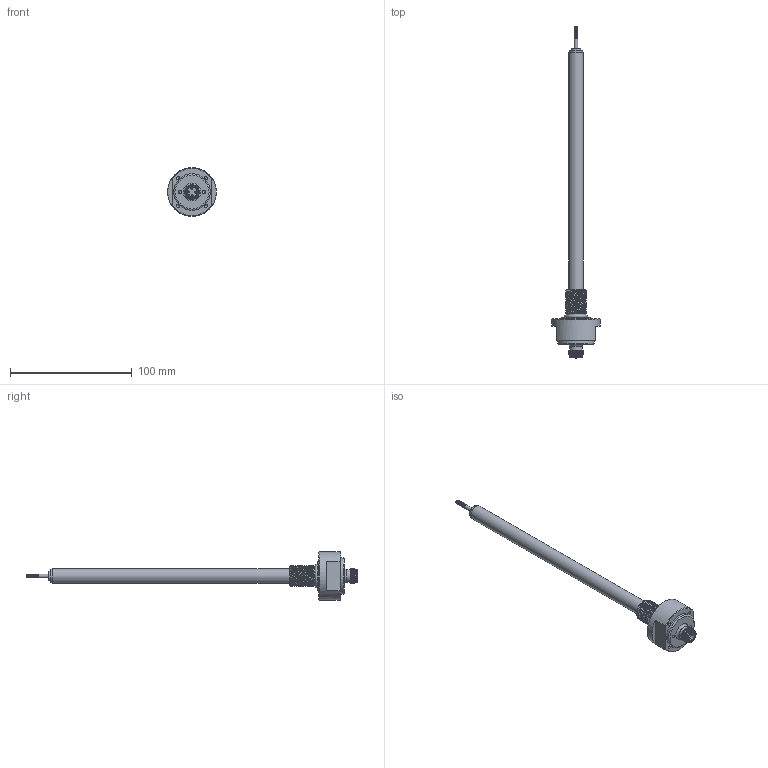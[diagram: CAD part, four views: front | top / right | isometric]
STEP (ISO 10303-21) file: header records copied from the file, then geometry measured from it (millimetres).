
FILE_DESCRIPTION( ( 'Unknown' ), '1' );
FILE_NAME( 'N:/Engineering/CAD/LVDT/HYD/Kunden-3D-Modell/SM100-HYD-M-18-S-M12.stp', 'Unknown', ( 'Unknown' ), ( 'Unknown' ), 'PSStep 17.0.49', 'Unknown', ' ' );
FILE_SCHEMA( ( 'AUTOMOTIVE_DESIGN { 1 0 10303 214 1 1 1 1 }' ) );
Length unit declared in the file: millimetre
Products named in the file (11): Einbaustecker_Waycon; Einbausteckverbinder_Waycon; Kontaktstift_M12; Assem1; Endkappe; Innenrohr_SM5-HYD; Kernverlängerung_SM5-HYD; SM-HYD-Flansch_M18_vereinfacht; O-Ring_15,4x2,1; Endkappe_HYD-KA_vereinfacht; Aussenrohr_SM100-HYD-M_vereinfacht
Assembly tree (13 placements, depth 3):
  Assem1
    Endkappe
    Innenrohr_SM5-HYD
    Kernverlängerung_SM5-HYD
    SM-HYD-Flansch_M18_vereinfacht
    O-Ring_15,4x2,1
    Endkappe_HYD-KA_vereinfacht
    Aussenrohr_SM100-HYD-M_vereinfacht
    Einbaustecker_Waycon
      Einbausteckverbinder_Waycon
      Kontaktstift_M12  x4
Bounding box: 40 x 273.2 x 40 mm (x, y, z)
Volume: 53223.3 mm3; surface area: 23767.4 mm2
Topology: 12 solids, 12 shells, 261 faces, 583 edges, 383 vertices
Faces by surface type: plane 122, cylinder 68, cone 37, extrusion 18, bspline 8, torus 8
Full cylindrical faces by diameter (mm): 0.5 x4, 1 x12, 1.2 x8, 1.8 x4, 2.013 x1, 2.4 x1, 2.5 x4, 2.6 x2, 3 x1, 4 x1, 6 x2, 8 x2, 8.2 x1, 8.3 x1, 9 x1, 9.35 x1, 9.55 x1, 10 x1, 10.05 x1, 10.5 x1, 10.6 x2, 11 x2, 12 x2, 15.8 x1, 22.5 x1, 24 x2, 30 x1, 40 x1
Entity records: 14294 total; most frequent: CARTESIAN_POINT 7955, DIRECTION 870, ORIENTED_EDGE 796, EDGE_CURVE 398, EDGE_LOOP 331, AXIS2_PLACEMENT_3D 327, VERTEX_POINT 309, FACE_OUTER_BOUND 264
